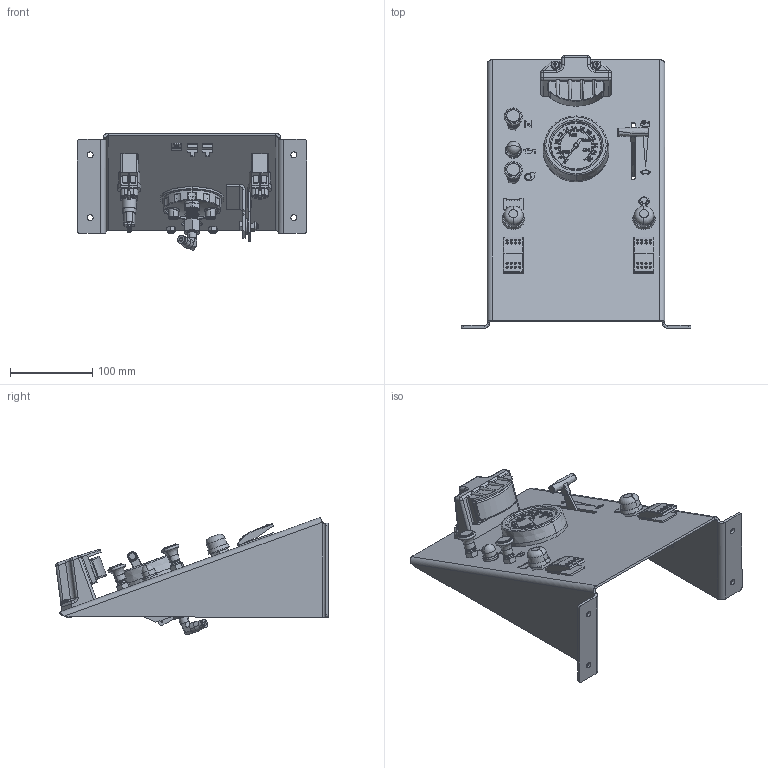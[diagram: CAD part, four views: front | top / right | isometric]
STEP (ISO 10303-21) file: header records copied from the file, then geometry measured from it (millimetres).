
FILE_DESCRIPTION (( 'STEP AP214' ), '1' );
FILE_NAME ('HPX-B18_B23_B35 PPK PANEL ASSEMBLY.STEP', '2017-10-30T12:15:50', ( '' ), ( '' ), 'SwSTEP 2.0', 'SolidWorks 2016', '' );
FILE_SCHEMA (( 'AUTOMOTIVE_DESIGN' ));
Length unit declared in the file: millimetre
Products named in the file (1): HPX-B18_B23_B35 PPK PANEL ASSEMBLY
Bounding box: 279.4 x 331.13 x 142.65 mm (x, y, z)
Surface area: 336995.6 mm2 (no closed solid volume)
Topology: 0 solids, 91 shells, 1586 faces, 9799 edges, 8172 vertices
Faces by surface type: plane 618, cylinder 496, torus 196, cone 141, bspline 111, sphere 24
Entity records: 132137 total; most frequent: CARTESIAN_POINT 44378, DIRECTION 13096, ORIENTED_EDGE 12861, EDGE_CURVE 9789, VERTEX_POINT 8170, LINE 6816, VECTOR 6816, AXIS2_PLACEMENT_3D 3140
